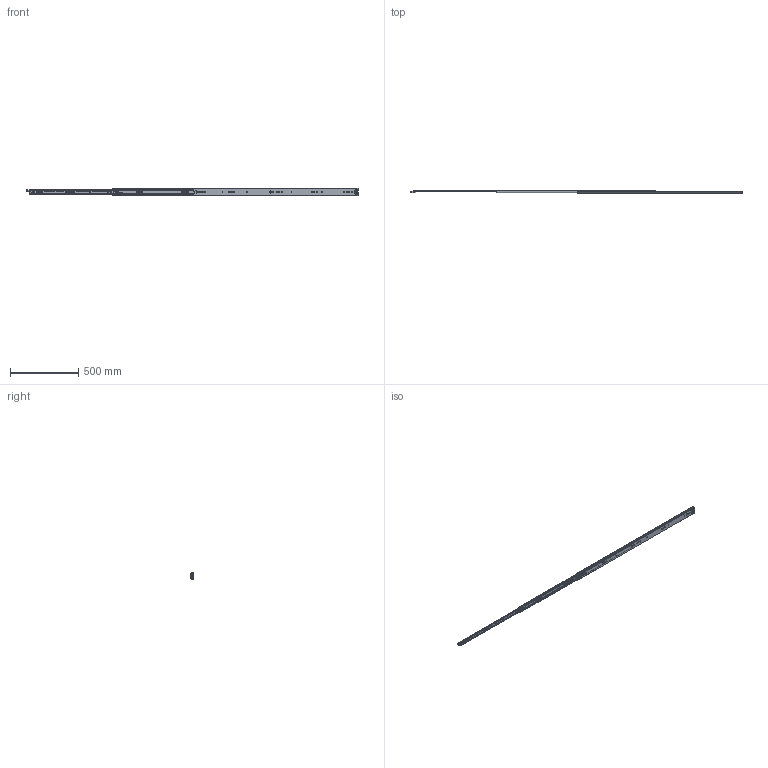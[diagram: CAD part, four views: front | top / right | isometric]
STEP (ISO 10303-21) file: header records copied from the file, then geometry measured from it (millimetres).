
FILE_DESCRIPTION((''),'2;1');
FILE_NAME('KP-57-01ZUZHUANGTU-48YOU_ASM','2023-04-04T',('jishu015'),(''),'PRO/ENGINEER BY PARAMETRIC TECHNOLOGY CORPORATION, 2010280','PRO/ENGINEER BY PARAMETRIC TECHNOLOGY CORPORATION, 2010280','');
FILE_SCHEMA(('CONFIG_CONTROL_DESIGN'));
Products named in the file (21): KP-57-01WEIKE-18_____; 1057WEIJIAO_____; WAIKE____ASM; KP-57-01ZHONGGUI-18_____; ZHONGGUIPEIJIAN-11___; ZHONGGUISUOKOU-11___; KP-57-01ZHONGGUI-18______ASM; 1057XIAOZHUJIA_____; 1057-5-6GANZHU_____; 1057XIAOZHUJIA-14GE______ASM; KP-57-01NEIGUI-18_____; PJ-57-08___; DIAOPIAN-11___; 50XINSUOKOU-1___; 1053-3SBANJI122_; JIAO11_; KP-57-01NEIGUI-18______ASM; 1053ZHUTIAO-175_________; 53-5-6GANZHU_________; 1053ZHUTIAO-175MM____ASM; KP-57-01ZUZHUANGTU-48YOU_ASM
Assembly tree (129 placements, depth 3):
  KP-57-01ZUZHUANGTU-48YOU_ASM
    WAIKE____ASM
      KP-57-01WEIKE-18_____
      1057WEIJIAO_____
    KP-57-01ZHONGGUI-18______ASM
      KP-57-01ZHONGGUI-18_____
      ZHONGGUIPEIJIAN-11___
      ZHONGGUISUOKOU-11___
    1057XIAOZHUJIA-14GE______ASM
      1057XIAOZHUJIA_____
      1057-5-6GANZHU_____  x88
    KP-57-01NEIGUI-18______ASM
      KP-57-01NEIGUI-18_____
      PJ-57-08___
      DIAOPIAN-11___
      50XINSUOKOU-1___
      1053-3SBANJI122_
      JIAO11_
    1053ZHUTIAO-175MM____ASM  x2
      1053ZHUTIAO-175_________
      53-5-6GANZHU_________
Bounding box: 2426.92 x 19.05 x 57.7 mm (x, y, z)
Volume: 530124.9 mm3; surface area: 578980.5 mm2
Topology: 147 solids, 147 shells, 3328 faces, 9681 edges, 6008 vertices
Faces by surface type: cylinder 1467, plane 1311, sphere 275, bspline 149, cone 86, extrusion 23, torus 17
Entity records: 105727 total; most frequent: CARTESIAN_POINT 25858, ORIENTED_EDGE 16930, DIRECTION 16461, EDGE_CURVE 8465, AXIS2_PLACEMENT_3D 5676, VERTEX_POINT 5468, VECTOR 5109, LINE 5086
